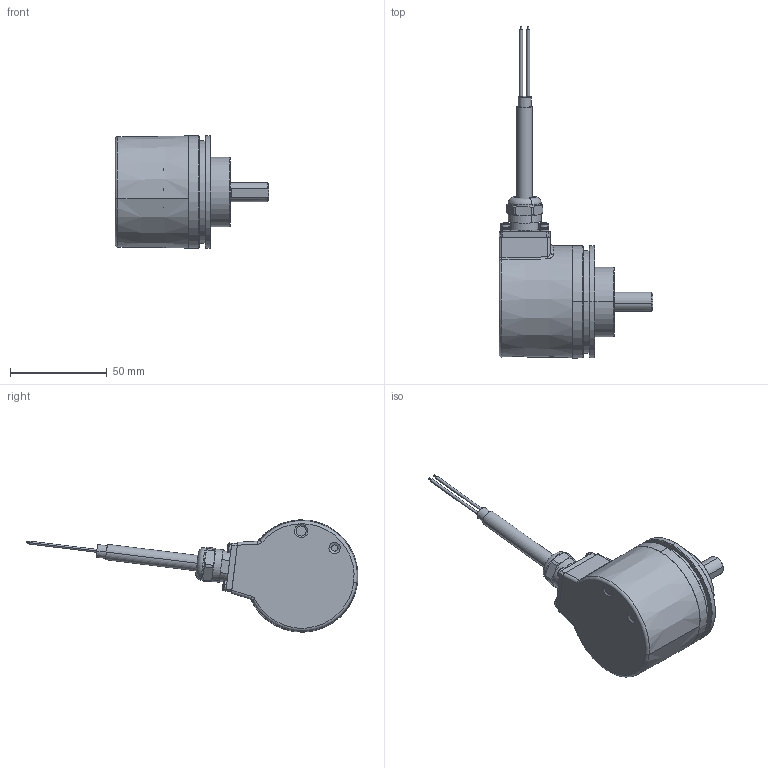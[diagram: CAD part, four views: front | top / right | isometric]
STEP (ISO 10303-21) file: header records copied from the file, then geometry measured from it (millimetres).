
FILE_DESCRIPTION (( 'STEP AP214' ), '1' );
FILE_NAME ('8.F5863.12X2.XXXX.STEP', '2014-05-22T09:07:16', ( 'HeirlerN' ), ( 'Microsoft' ), 'SwSTEP 2.0', 'SolidWorks 2013', '' );
FILE_SCHEMA (( 'AUTOMOTIVE_DESIGN' ));
Length unit declared in the file: millimetre
Products named in the file (1): 8.F5863.12X2.XXXX
Bounding box: 79.5 x 171.48 x 58 mm (x, y, z)
Volume: 72453.1 mm3; surface area: 49767.1 mm2
Topology: 12 solids, 12 shells, 808 faces, 1959 edges, 1179 vertices
Faces by surface type: cylinder 255, plane 209, cone 184, torus 96, bspline 36, sphere 28
Entity records: 34090 total; most frequent: CARTESIAN_POINT 6508, DIRECTION 4121, ORIENTED_EDGE 3734, EDGE_CURVE 1867, AXIS2_PLACEMENT_3D 1727, VERTEX_POINT 1149, CIRCLE 954, EDGE_LOOP 914
